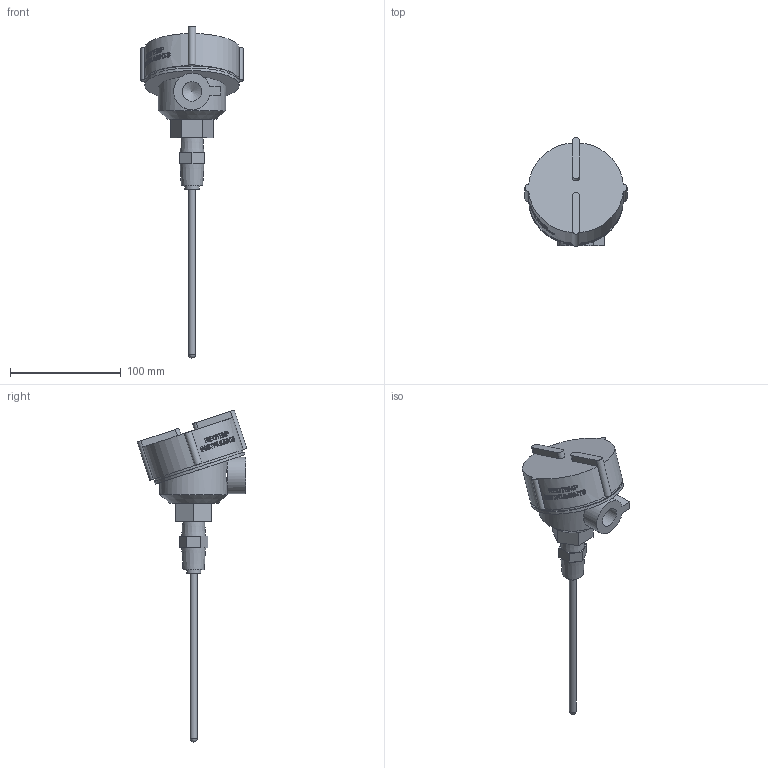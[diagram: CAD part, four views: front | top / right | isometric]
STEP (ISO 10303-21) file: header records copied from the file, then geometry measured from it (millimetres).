
FILE_DESCRIPTION(/* description */ (''),/* implementation_level */ '2;1');
FILE_NAME(/* name */ 'P:\3D Drawings\Explosion Proof\Explosion-Proof-Head-Spring-Loaded\Explosion-Proof-Head-Spring-Loaded-STP\Explosion-Proof-Head-Spring-Loaded-STP.stp',/* time_stamp */ '2015-11-11T12:40:14-08:00',/* author */ ('charles'),/* organization */ (''),/* preprocessor_version */ 'ST-DEVELOPER v15.2',/* originating_system */ 'Autodesk Inventor 2014',/* authorisation */ '');
FILE_SCHEMA (('AUTOMOTIVE_DESIGN { 1 0 10303 214 3 1 1 }'));
Products named in the file (1): Explosion-Proof-Head-Spring-Loaded
Bounding box: 92.2 x 99.01 x 299.92 mm (x, y, z)
Volume: 318033.4 mm3; surface area: 44560.8 mm2
Topology: 3 solids, 3 shells, 309 faces, 810 edges, 536 vertices
Faces by surface type: plane 170, bspline 86, cylinder 46, cone 5, torus 1, sphere 1
Full cylindrical faces by diameter (mm): 6.35 x2, 11.789 x1, 12.7 x2, 17.272 x1, 17.78 x3, 19.05 x1, 60.96 x1, 83.312 x1, 85.56 x1
Entity records: 32703 total; most frequent: CARTESIAN_POINT 25878, ORIENTED_EDGE 1566, DIRECTION 1064, EDGE_CURVE 780, VERTEX_POINT 526, EDGE_LOOP 363, AXIS2_PLACEMENT_3D 355, LINE 354
